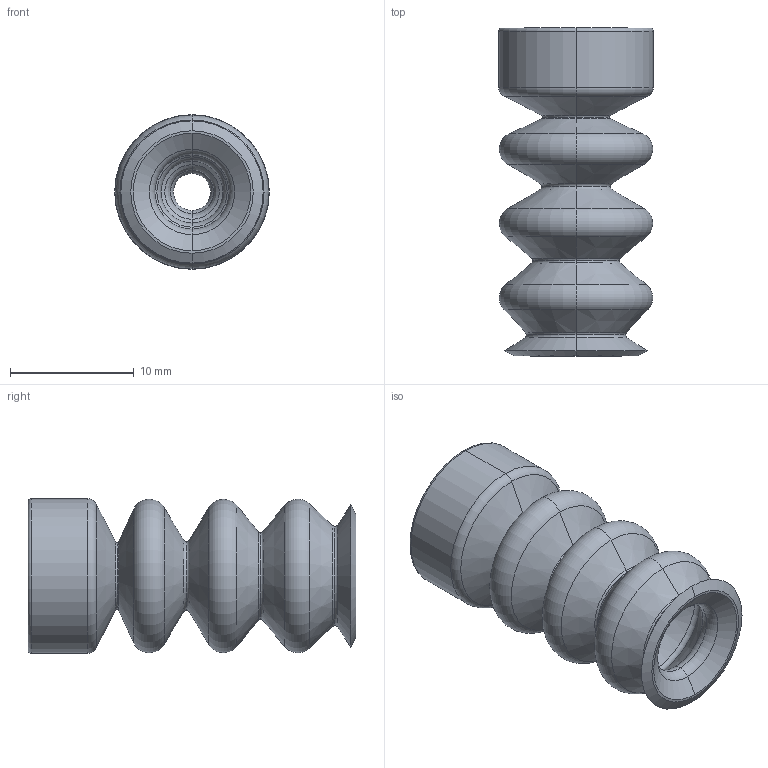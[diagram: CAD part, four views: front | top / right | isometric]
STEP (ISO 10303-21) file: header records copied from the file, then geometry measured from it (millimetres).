
FILE_DESCRIPTION (( 'STEP AP203' ), '1' );
FILE_NAME ('80A_12--A.STEP', '2017-07-12T07:17:01', ( '' ), ( '' ), 'SwSTEP 2.0', 'SolidWorks 2016', '' );
FILE_SCHEMA (( 'CONFIG_CONTROL_DESIGN' ));
Length unit declared in the file: millimetre
Products named in the file (1): 80A_12--A
Bounding box: 12.5 x 26.5 x 12.5 mm (x, y, z)
Volume: 1415.1 mm3; surface area: 2077.9 mm2
Topology: 1 solids, 1 shells, 91 faces, 182 edges, 94 vertices
Faces by surface type: torus 50, cone 34, cylinder 4, plane 3
Entity records: 2425 total; most frequent: DIRECTION 510, CARTESIAN_POINT 368, ORIENTED_EDGE 364, AXIS2_PLACEMENT_3D 236, EDGE_CURVE 182, CIRCLE 144, EDGE_LOOP 94, VERTEX_POINT 94
